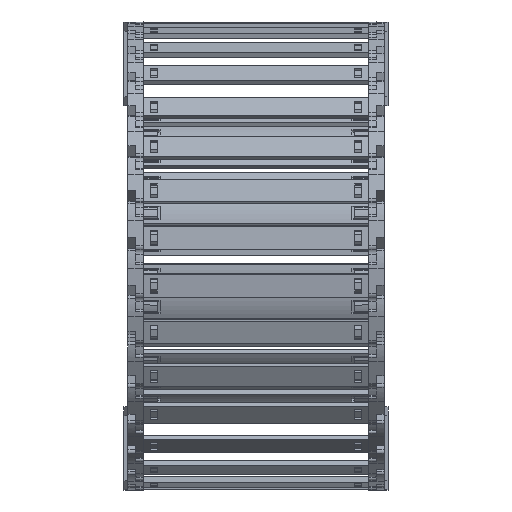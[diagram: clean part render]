
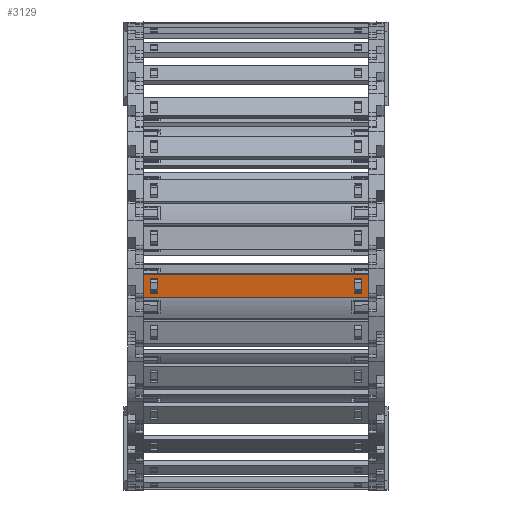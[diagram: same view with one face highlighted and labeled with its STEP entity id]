
A CAD part, top view. The second image highlights one B-rep face of the part: STEP entity #3129.
In plain terms, the highlighted planar face has unit normal (0, -0.129, 0.992) as drawn and (0, 0, -1) by its records, which use the part's own axes.
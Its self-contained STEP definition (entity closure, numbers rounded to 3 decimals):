
#2609=DIRECTION('',(-1.,0.,0.));
#2610=VECTOR('',#2609,18.);
#2611=CARTESIAN_POINT('',(9.,-150.75,0.));
#2612=LINE('',#2611,#2610);
#2647=DIRECTION('',(0.,1.,0.));
#2648=VECTOR('',#2647,5.56);
#2649=CARTESIAN_POINT('',(-5.55,14.2,0.));
#2650=LINE('',#2649,#2648);
#2651=DIRECTION('',(1.,0.,0.));
#2652=VECTOR('',#2651,11.1);
#2653=CARTESIAN_POINT('',(-5.55,19.76,0.));
#2654=LINE('',#2653,#2652);
#2655=DIRECTION('',(0.,-1.,0.));
#2656=VECTOR('',#2655,5.56);
#2657=CARTESIAN_POINT('',(5.55,19.76,0.));
#2658=LINE('',#2657,#2656);
#2659=DIRECTION('',(-1.,0.,0.));
#2660=VECTOR('',#2659,11.1);
#2661=CARTESIAN_POINT('',(5.55,14.2,0.));
#2662=LINE('',#2661,#2660);
#2667=DIRECTION('',(1.,0.,0.));
#2668=VECTOR('',#2667,18.);
#2669=CARTESIAN_POINT('',(-9.,25.25,0.));
#2670=LINE('',#2669,#2668);
#2701=DIRECTION('',(0.,1.,0.));
#2702=VECTOR('',#2701,176.);
#2703=CARTESIAN_POINT('',(-9.,-150.75,0.));
#2704=LINE('',#2703,#2702);
#2830=DIRECTION('',(0.,-1.,0.));
#2831=VECTOR('',#2830,176.);
#2832=CARTESIAN_POINT('',(9.,25.25,0.));
#2833=LINE('',#2832,#2831);
#2895=DIRECTION('',(0.,-1.,0.));
#2896=VECTOR('',#2895,5.56);
#2897=CARTESIAN_POINT('',(-5.55,-139.7,0.));
#2898=LINE('',#2897,#2896);
#2907=DIRECTION('',(0.,1.,0.));
#2908=VECTOR('',#2907,5.56);
#2909=CARTESIAN_POINT('',(5.55,-145.26,0.));
#2910=LINE('',#2909,#2908);
#2919=DIRECTION('',(1.,0.,0.));
#2920=VECTOR('',#2919,11.1);
#2921=CARTESIAN_POINT('',(-5.55,-145.26,0.));
#2922=LINE('',#2921,#2920);
#2931=DIRECTION('',(-1.,0.,0.));
#2932=VECTOR('',#2931,11.1);
#2933=CARTESIAN_POINT('',(5.55,-139.7,0.));
#2934=LINE('',#2933,#2932);
#2983=CARTESIAN_POINT('',(9.,-150.75,0.));
#2984=CARTESIAN_POINT('',(-9.,-150.75,0.));
#2985=VERTEX_POINT('',#2983);
#2986=VERTEX_POINT('',#2984);
#3007=CARTESIAN_POINT('',(-5.55,-139.7,0.));
#3008=CARTESIAN_POINT('',(-5.55,-145.26,0.));
#3009=VERTEX_POINT('',#3007);
#3010=VERTEX_POINT('',#3008);
#3011=CARTESIAN_POINT('',(5.55,-139.7,0.));
#3012=VERTEX_POINT('',#3011);
#3013=CARTESIAN_POINT('',(5.55,-145.26,0.));
#3014=VERTEX_POINT('',#3013);
#3039=CARTESIAN_POINT('',(-9.,25.25,0.));
#3040=CARTESIAN_POINT('',(9.,25.25,0.));
#3041=VERTEX_POINT('',#3039);
#3042=VERTEX_POINT('',#3040);
#3043=CARTESIAN_POINT('',(-5.55,14.2,0.));
#3044=CARTESIAN_POINT('',(-5.55,19.76,0.));
#3045=VERTEX_POINT('',#3043);
#3046=VERTEX_POINT('',#3044);
#3047=CARTESIAN_POINT('',(5.55,19.76,0.));
#3048=VERTEX_POINT('',#3047);
#3049=CARTESIAN_POINT('',(5.55,14.2,0.));
#3050=VERTEX_POINT('',#3049);
#3095=CARTESIAN_POINT('',(8.,-150.75,0.));
#3096=DIRECTION('',(0.,0.,-1.));
#3097=DIRECTION('',(-1.,0.,0.));
#3098=AXIS2_PLACEMENT_3D('',#3095,#3096,#3097);
#3099=PLANE('',#3098);
#3101=ORIENTED_EDGE('',*,*,#3100,.F.);
#3103=ORIENTED_EDGE('',*,*,#3102,.F.);
#3104=ORIENTED_EDGE('',*,*,#3068,.F.);
#3106=ORIENTED_EDGE('',*,*,#3105,.F.);
#3107=EDGE_LOOP('',(#3101,#3103,#3104,#3106));
#3108=FACE_OUTER_BOUND('',#3107,.F.);
#3110=ORIENTED_EDGE('',*,*,#3109,.T.);
#3112=ORIENTED_EDGE('',*,*,#3111,.T.);
#3114=ORIENTED_EDGE('',*,*,#3113,.T.);
#3116=ORIENTED_EDGE('',*,*,#3115,.T.);
#3117=EDGE_LOOP('',(#3110,#3112,#3114,#3116));
#3118=FACE_BOUND('',#3117,.F.);
#3120=ORIENTED_EDGE('',*,*,#3119,.F.);
#3122=ORIENTED_EDGE('',*,*,#3121,.F.);
#3124=ORIENTED_EDGE('',*,*,#3123,.F.);
#3126=ORIENTED_EDGE('',*,*,#3125,.F.);
#3127=EDGE_LOOP('',(#3120,#3122,#3124,#3126));
#3128=FACE_BOUND('',#3127,.F.);
#3129=ADVANCED_FACE('',(#3108,#3118,#3128),#3099,.T.);
#3068=EDGE_CURVE('',#2985,#2986,#2612,.T.);
#3100=EDGE_CURVE('',#3041,#3042,#2670,.T.);
#3102=EDGE_CURVE('',#2986,#3041,#2704,.T.);
#3105=EDGE_CURVE('',#3042,#2985,#2833,.T.);
#3109=EDGE_CURVE('',#3045,#3046,#2650,.T.);
#3111=EDGE_CURVE('',#3046,#3048,#2654,.T.);
#3113=EDGE_CURVE('',#3048,#3050,#2658,.T.);
#3115=EDGE_CURVE('',#3050,#3045,#2662,.T.);
#3119=EDGE_CURVE('',#3009,#3010,#2898,.T.);
#3121=EDGE_CURVE('',#3012,#3009,#2934,.T.);
#3123=EDGE_CURVE('',#3014,#3012,#2910,.T.);
#3125=EDGE_CURVE('',#3010,#3014,#2922,.T.);
